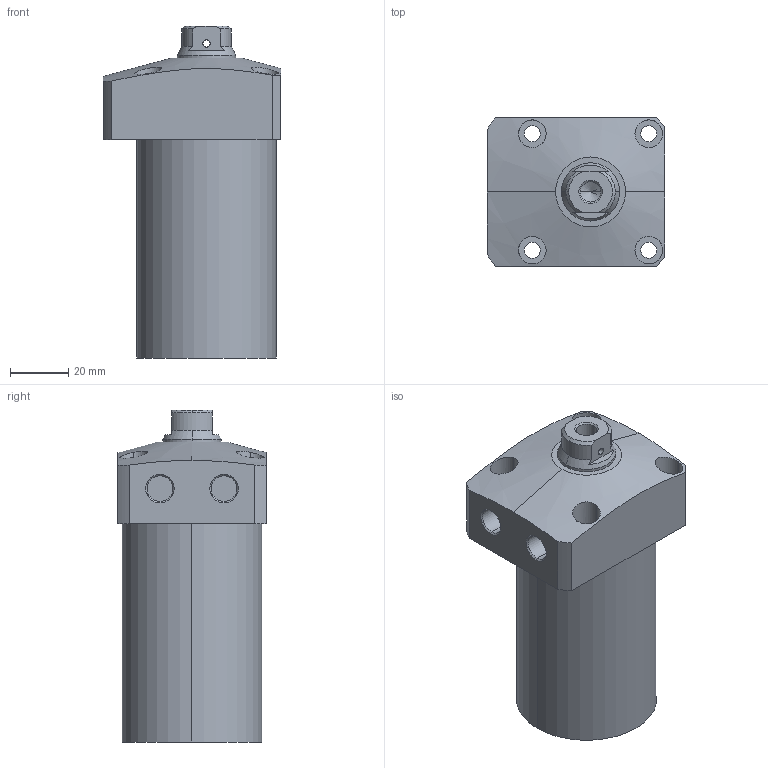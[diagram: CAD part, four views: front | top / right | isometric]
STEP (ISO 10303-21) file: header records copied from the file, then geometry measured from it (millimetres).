
FILE_DESCRIPTION (( 'STEP AP203' ), '1' );
FILE_NAME ('CLL-0480-CB-65.STEP', '2017-05-09T03:15:01', ( '' ), ( '' ), 'SwSTEP 2.0', 'SolidWorks 2015', '' );
FILE_SCHEMA (( 'CONFIG_CONTROL_DESIGN' ));
Length unit declared in the file: millimetre
Products named in the file (1): CLL-0480-CB-65
Bounding box: 61 x 51 x 114 mm (x, y, z)
Volume: 210286.6 mm3; surface area: 25911.5 mm2
Topology: 1 solids, 1 shells, 76 faces, 181 edges, 116 vertices
Faces by surface type: cylinder 39, plane 22, cone 15
Entity records: 2695 total; most frequent: CARTESIAN_POINT 818, DIRECTION 386, ORIENTED_EDGE 358, EDGE_CURVE 179, AXIS2_PLACEMENT_3D 158, VERTEX_POINT 116, EDGE_LOOP 99, CIRCLE 81
